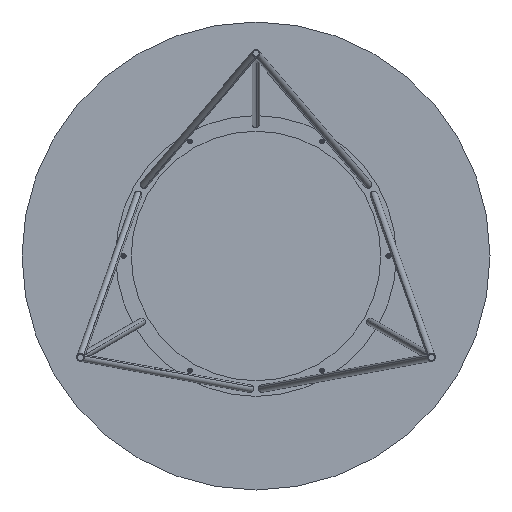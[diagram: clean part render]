
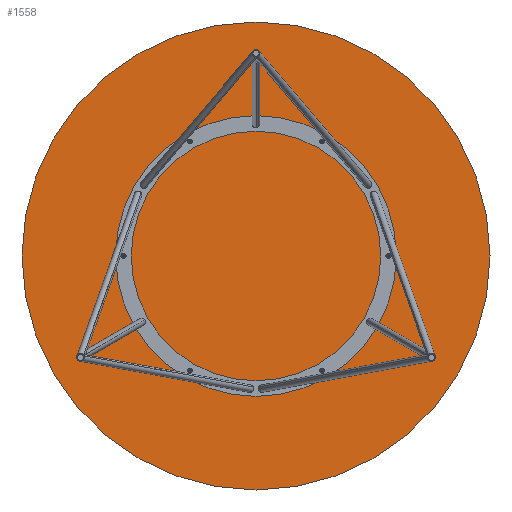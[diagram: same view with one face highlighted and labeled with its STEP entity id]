
A CAD part, front view. The second image highlights one B-rep face of the part: STEP entity #1558.
In plain terms, the highlighted planar face has unit normal (0, -1, 0).
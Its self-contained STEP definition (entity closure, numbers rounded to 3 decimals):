
#103 = DIRECTION ( 'NONE',  ( 0., 0., 1. ) ) ;
#184 = VERTEX_POINT ( 'NONE', #1831 ) ;
#342 = EDGE_LOOP ( 'NONE', ( #5286, #1749 ) ) ;
#468 = DIRECTION ( 'NONE',  ( 0., 1., 0. ) ) ;
#868 = DIRECTION ( 'NONE',  ( 0., 1., 0. ) ) ;
#957 = AXIS2_PLACEMENT_3D ( 'NONE', #1367, #1325, #103 ) ;
#1325 = DIRECTION ( 'NONE',  ( 0., 1., 0. ) ) ;
#1367 = CARTESIAN_POINT ( 'NONE',  ( 0., 0., 0. ) ) ;
#1558 = ADVANCED_FACE ( 'NONE', ( #7975 ), #5967, .F. ) ;
#1749 = ORIENTED_EDGE ( 'NONE', *, *, #3567, .F. ) ;
#1831 = CARTESIAN_POINT ( 'NONE',  ( 0., 0., 375. ) ) ;
#2580 = VERTEX_POINT ( 'NONE', #7486 ) ;
#2755 = EDGE_CURVE ( 'NONE', #2580, #184, #6257, .T. ) ;
#3415 = CARTESIAN_POINT ( 'NONE',  ( 0., 0., 0. ) ) ;
#3453 = DIRECTION ( 'NONE',  ( 0., 0., 1. ) ) ;
#3567 = EDGE_CURVE ( 'NONE', #184, #2580, #7264, .T. ) ;
#3641 = CARTESIAN_POINT ( 'NONE',  ( 0., 0., 0. ) ) ;
#5286 = ORIENTED_EDGE ( 'NONE', *, *, #2755, .F. ) ;
#5967 = PLANE ( 'NONE',  #7109 ) ;
#6257 = CIRCLE ( 'NONE', #7218, 375. ) ;
#7109 = AXIS2_PLACEMENT_3D ( 'NONE', #3415, #868, #3453 ) ;
#7218 = AXIS2_PLACEMENT_3D ( 'NONE', #3641, #468, #8165 ) ;
#7264 = CIRCLE ( 'NONE', #957, 375. ) ;
#7486 = CARTESIAN_POINT ( 'NONE',  ( 0., 0., -375. ) ) ;
#7975 = FACE_OUTER_BOUND ( 'NONE', #342, .T. ) ;
#8165 = DIRECTION ( 'NONE',  ( 0., 0., 1. ) ) ;
